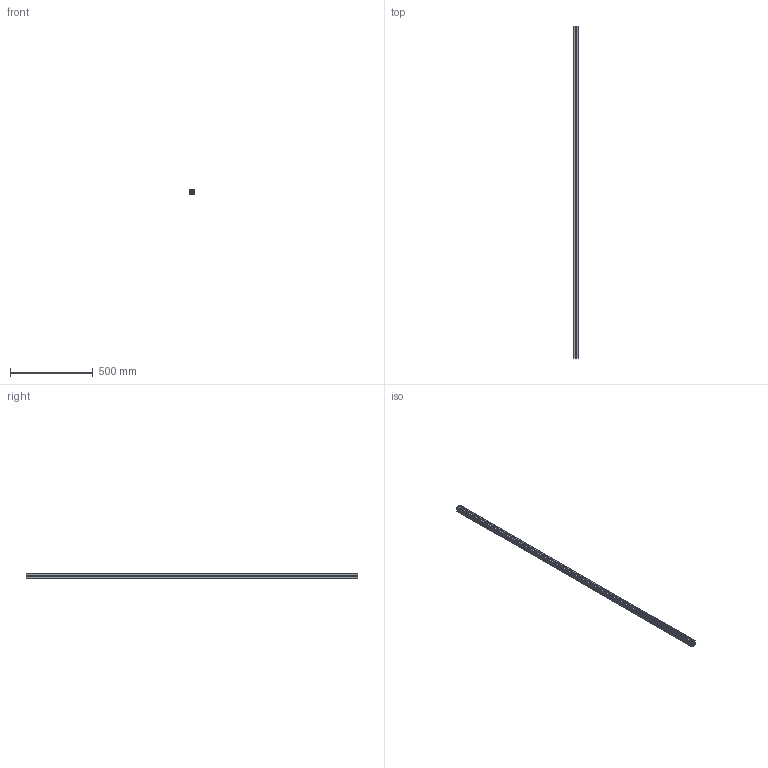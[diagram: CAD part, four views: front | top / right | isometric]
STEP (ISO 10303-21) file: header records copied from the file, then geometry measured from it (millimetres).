
FILE_DESCRIPTION (( 'STEP AP214' ), '1' );
FILE_NAME ('PEP3030-2000.STEP', '2021-03-19T06:45:11', ( '微软用户' ), ( '微软中国' ), 'SwSTEP 2.0', 'SolidWorks 2018', '' );
FILE_SCHEMA (( 'AUTOMOTIVE_DESIGN' ));
Length unit declared in the file: millimetre
Products named in the file (1): PEP3030-2000
Bounding box: 30 x 2000 x 30 mm (x, y, z)
Volume: 776452.2 mm3; surface area: 843795.9 mm2
Topology: 1 solids, 1 shells, 164 faces, 486 edges, 324 vertices
Faces by surface type: plane 106, cylinder 58
Entity records: 5556 total; most frequent: CARTESIAN_POINT 975, ORIENTED_EDGE 972, DIRECTION 932, EDGE_CURVE 486, VECTOR 370, LINE 370, VERTEX_POINT 324, AXIS2_PLACEMENT_3D 281
